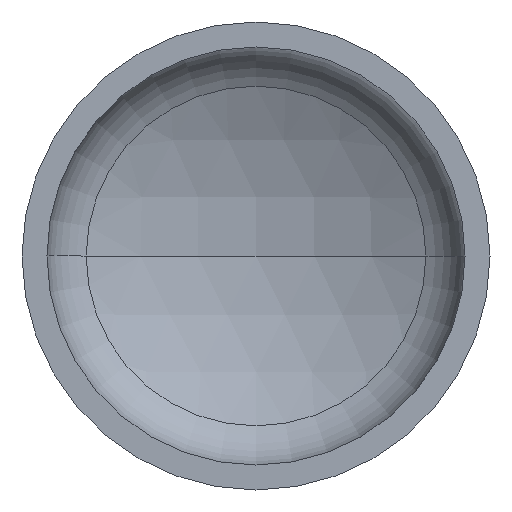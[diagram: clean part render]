
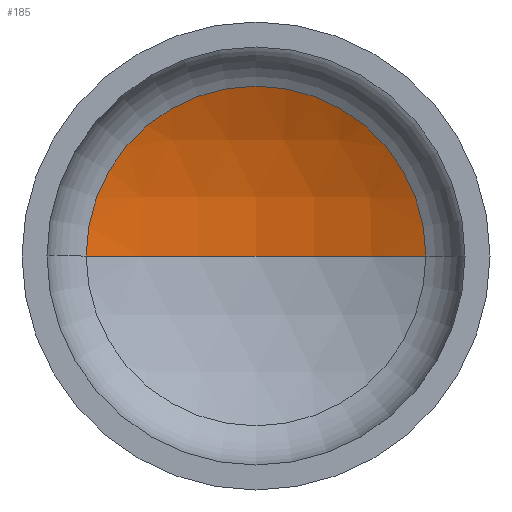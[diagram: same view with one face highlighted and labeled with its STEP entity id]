
A CAD part, front view. The second image highlights one B-rep face of the part: STEP entity #185.
In plain terms, the highlighted spherical face has radius 1200 mm.
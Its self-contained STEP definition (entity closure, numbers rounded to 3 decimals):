
#2 = AXIS2_PLACEMENT_3D ( 'NONE', #351, #202, #290 ) ;
#14 = AXIS2_PLACEMENT_3D ( 'NONE', #132, #268, #271 ) ;
#29 = EDGE_LOOP ( 'NONE', ( #69, #167, #49 ) ) ;
#32 = CARTESIAN_POINT ( 'NONE',  ( 0., -744.465, 0. ) ) ;
#39 = AXIS2_PLACEMENT_3D ( 'NONE', #32, #388, #207 ) ;
#49 = ORIENTED_EDGE ( 'NONE', *, *, #356, .T. ) ;
#51 = VERTEX_POINT ( 'NONE', #267 ) ;
#69 = ORIENTED_EDGE ( 'NONE', *, *, #391, .F. ) ;
#78 = CIRCLE ( 'NONE', #224, 1200. ) ;
#113 = CARTESIAN_POINT ( 'NONE',  ( 0., -744.465, 0. ) ) ;
#125 = VERTEX_POINT ( 'NONE', #219 ) ;
#132 = CARTESIAN_POINT ( 'NONE',  ( 0., 324.976, 0. ) ) ;
#148 = VERTEX_POINT ( 'NONE', #228 ) ;
#167 = ORIENTED_EDGE ( 'NONE', *, *, #393, .T. ) ;
#171 = FACE_OUTER_BOUND ( 'NONE', #29, .T. ) ;
#175 = DIRECTION ( 'NONE',  ( 0., 0., -1. ) ) ;
#185 = ADVANCED_FACE ( 'NONE', ( #171 ), #364, .F. ) ;
#202 = DIRECTION ( 'NONE',  ( 0., 0., 1. ) ) ;
#207 = DIRECTION ( 'NONE',  ( -1., 0., 0. ) ) ;
#219 = CARTESIAN_POINT ( 'NONE',  ( 544.33, 324.976, 0. ) ) ;
#224 = AXIS2_PLACEMENT_3D ( 'NONE', #113, #175, #349 ) ;
#228 = CARTESIAN_POINT ( 'NONE',  ( -544.33, 324.976, 0. ) ) ;
#267 = CARTESIAN_POINT ( 'NONE',  ( 0., 455.535, 0. ) ) ;
#268 = DIRECTION ( 'NONE',  ( 0., -1., 0. ) ) ;
#271 = DIRECTION ( 'NONE',  ( 1., 0., 0. ) ) ;
#290 = DIRECTION ( 'NONE',  ( 1., 0., 0. ) ) ;
#303 = CIRCLE ( 'NONE', #2, 1200. ) ;
#325 = CIRCLE ( 'NONE', #14, 544.33 ) ;
#349 = DIRECTION ( 'NONE',  ( -1., 0., 0. ) ) ;
#351 = CARTESIAN_POINT ( 'NONE',  ( 0., -744.465, 0. ) ) ;
#356 = EDGE_CURVE ( 'NONE', #125, #148, #325, .T. ) ;
#364 = SPHERICAL_SURFACE ( 'NONE', #39, 1200. ) ;
#388 = DIRECTION ( 'NONE',  ( 0., 0., -1. ) ) ;
#391 = EDGE_CURVE ( 'NONE', #51, #148, #303, .T. ) ;
#393 = EDGE_CURVE ( 'NONE', #51, #125, #78, .T. ) ;
